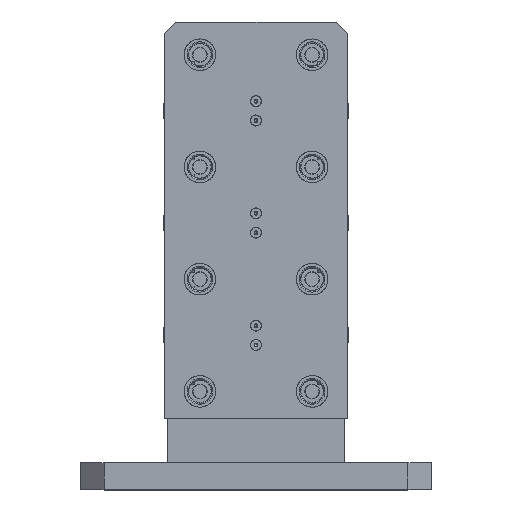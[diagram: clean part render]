
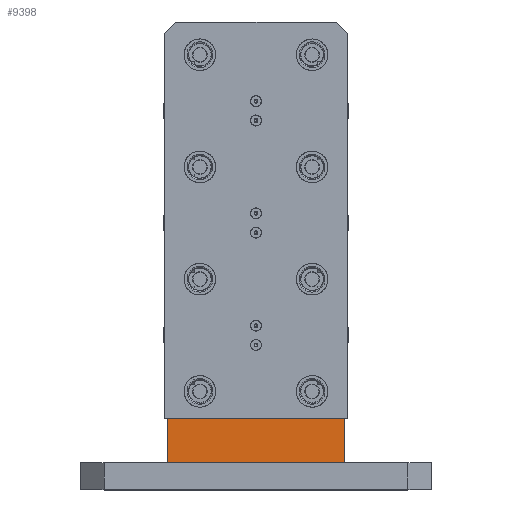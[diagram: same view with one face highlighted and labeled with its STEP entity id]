
A CAD part, top view. The second image highlights one B-rep face of the part: STEP entity #9398.
In plain terms, the highlighted planar face has unit normal (0, 0, 1).
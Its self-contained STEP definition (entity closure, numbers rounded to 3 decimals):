
#1207 = VECTOR ( 'NONE', #10993, 1000. ) ;
#2051 = VERTEX_POINT ( 'NONE', #9090 ) ;
#2479 = DIRECTION ( 'NONE',  ( 0., -1., 0. ) ) ;
#2614 = CARTESIAN_POINT ( 'NONE',  ( 75.968, 38.1, 47.968 ) ) ;
#3754 = EDGE_CURVE ( 'NONE', #3988, #2051, #11745, .T. ) ;
#3795 = DIRECTION ( 'NONE',  ( 0., 0., 1. ) ) ;
#3988 = VERTEX_POINT ( 'NONE', #12658 ) ;
#5127 = EDGE_CURVE ( 'NONE', #16666, #3988, #12474, .T. ) ;
#5627 = DIRECTION ( 'NONE',  ( -1., 0., 0. ) ) ;
#5787 = AXIS2_PLACEMENT_3D ( 'NONE', #8824, #3795, #11832 ) ;
#6001 = EDGE_CURVE ( 'NONE', #16666, #20747, #8848, .T. ) ;
#8241 = ORIENTED_EDGE ( 'NONE', *, *, #9813, .T. ) ;
#8824 = CARTESIAN_POINT ( 'NONE',  ( 75.968, 38.1, 47.968 ) ) ;
#8848 = LINE ( 'NONE', #20359, #19180 ) ;
#8884 = CARTESIAN_POINT ( 'NONE',  ( 75.968, 38.1, 47.968 ) ) ;
#9090 = CARTESIAN_POINT ( 'NONE',  ( -75.968, 0., 47.968 ) ) ;
#9398 = ADVANCED_FACE ( 'NONE', ( #18522 ), #13651, .T. ) ;
#9813 = EDGE_CURVE ( 'NONE', #20747, #2051, #17168, .T. ) ;
#10231 = CARTESIAN_POINT ( 'NONE',  ( 75.968, 0., 47.968 ) ) ;
#10993 = DIRECTION ( 'NONE',  ( 0., -1., 0. ) ) ;
#11328 = CARTESIAN_POINT ( 'NONE',  ( -75.968, 38.1, 47.968 ) ) ;
#11745 = LINE ( 'NONE', #10231, #16349 ) ;
#11832 = DIRECTION ( 'NONE',  ( 1., 0., 0. ) ) ;
#11901 = EDGE_LOOP ( 'NONE', ( #20265, #15994, #16180, #8241 ) ) ;
#12474 = LINE ( 'NONE', #2614, #1207 ) ;
#12658 = CARTESIAN_POINT ( 'NONE',  ( 75.968, 0., 47.968 ) ) ;
#13358 = VECTOR ( 'NONE', #2479, 1000. ) ;
#13651 = PLANE ( 'NONE',  #5787 ) ;
#15171 = DIRECTION ( 'NONE',  ( -1., 0., 0. ) ) ;
#15994 = ORIENTED_EDGE ( 'NONE', *, *, #5127, .F. ) ;
#16180 = ORIENTED_EDGE ( 'NONE', *, *, #6001, .T. ) ;
#16349 = VECTOR ( 'NONE', #15171, 1000. ) ;
#16666 = VERTEX_POINT ( 'NONE', #8884 ) ;
#17168 = LINE ( 'NONE', #20734, #13358 ) ;
#18522 = FACE_OUTER_BOUND ( 'NONE', #11901, .T. ) ;
#19180 = VECTOR ( 'NONE', #5627, 1000. ) ;
#20265 = ORIENTED_EDGE ( 'NONE', *, *, #3754, .F. ) ;
#20359 = CARTESIAN_POINT ( 'NONE',  ( 75.968, 38.1, 47.968 ) ) ;
#20734 = CARTESIAN_POINT ( 'NONE',  ( -75.968, 38.1, 47.968 ) ) ;
#20747 = VERTEX_POINT ( 'NONE', #11328 ) ;
